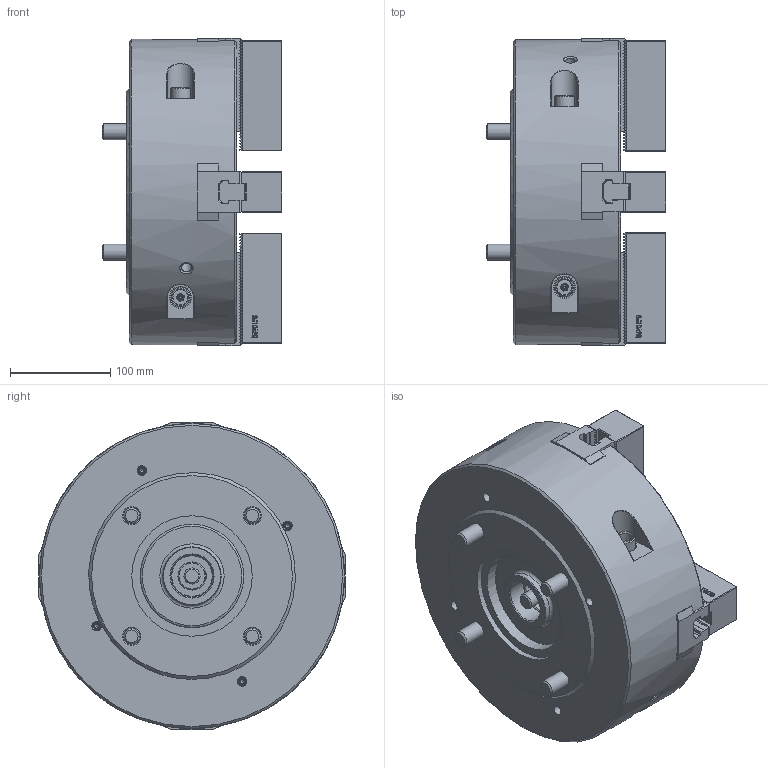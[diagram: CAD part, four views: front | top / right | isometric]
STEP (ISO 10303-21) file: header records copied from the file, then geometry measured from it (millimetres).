
FILE_DESCRIPTION (( 'STEP AP214' ), '1' );
FILE_NAME ('DT1_HW-12_OUTSIDE_VIEW_HCL.STEP', '2024-05-10T00:30:02', ( '' ), ( '' ), 'SwSTEP 2.0', 'SolidWorks 2022', '' );
FILE_SCHEMA (( 'AUTOMOTIVE_DESIGN' ));
Length unit declared in the file: millimetre
Products named in the file (10): DT1_HW-12_TNUT^DT1_HW-12_ﾃﾞﾌｫﾙﾄ; DT1_HW-12_COVER^DT1_HW-12_ﾃﾞﾌｫﾙﾄ; DT1_HW-12_OUTSIDE_VIEW_HCL; DT1_HW-12_DN^DT1_HW-12_ﾃﾞﾌｫﾙﾄ; DT1_HW-12_SOFTJAW^DT1_HW-12_ﾃﾞﾌｫﾙﾄ; DT1_HW-12_BASE^DT1_HW-12_ﾃﾞﾌｫﾙﾄ; DT1_HW-12_M5x10^DT1_HW-12_ﾃﾞﾌｫﾙﾄ; DT1_HW-12_DRAWSCREW^DT1_HW-12_ﾃﾞﾌｫﾙﾄ; DT1_HW-12_M16x115^DT1_HW-12_ﾃﾞﾌｫﾙﾄ; DT1_HW-12_M12x35^DT1_HW-12_ﾃﾞﾌｫﾙﾄ
Assembly tree (28 placements, depth 2):
  DT1_HW-12_OUTSIDE_VIEW_HCL
    DT1_HW-12_SOFTJAW^DT1_HW-12_ﾃﾞﾌｫﾙﾄ  x4
    DT1_HW-12_TNUT^DT1_HW-12_ﾃﾞﾌｫﾙﾄ  x4
    DT1_HW-12_COVER^DT1_HW-12_ﾃﾞﾌｫﾙﾄ
    DT1_HW-12_DRAWSCREW^DT1_HW-12_ﾃﾞﾌｫﾙﾄ
    DT1_HW-12_DN^DT1_HW-12_ﾃﾞﾌｫﾙﾄ
    DT1_HW-12_BASE^DT1_HW-12_ﾃﾞﾌｫﾙﾄ
    DT1_HW-12_M16x115^DT1_HW-12_ﾃﾞﾌｫﾙﾄ  x4
    DT1_HW-12_M12x35^DT1_HW-12_ﾃﾞﾌｫﾙﾄ  x8
    DT1_HW-12_M5x10^DT1_HW-12_ﾃﾞﾌｫﾙﾄ  x4
Bounding box: 179 x 305.64 x 306 mm (x, y, z)
Volume: 8240120 mm3; surface area: 587975 mm2
Topology: 28 solids, 38 shells, 4773 faces, 13403 edges, 8859 vertices
Faces by surface type: plane 3312, cylinder 760, bspline 387, cone 279, torus 31, sphere 4
Full cylindrical faces by diameter (mm): 2 x4, 4.2 x4, 5 x4, 5.5 x4, 6.8 x4, 8.72 x4, 9.5 x8, 10.2 x10, 12 x8, 13 x8, 13.27 x4, 13.835 x1, 14 x5, 15 x4, 16 x6, 17 x4, 18.27 x8, 19 x8, 19.6 x4, 20.5 x4, 24.33 x5, 25 x5, 28 x1, 40.376 x1, 42 x1, 44 x1, 58 x1, 103 x1, 120 x1, 304 x1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
Entity records: 111029 total; most frequent: CARTESIAN_POINT 32402, ORIENTED_EDGE 17198, DIRECTION 14356, EDGE_CURVE 8599, VECTOR 6602, LINE 6602, VERTEX_POINT 5791, AXIS2_PLACEMENT_3D 3877
